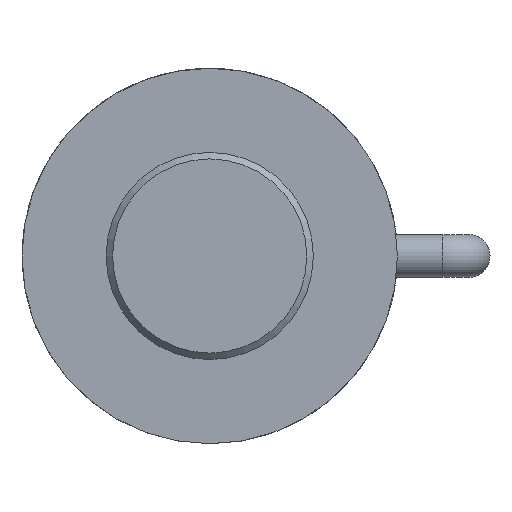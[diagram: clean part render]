
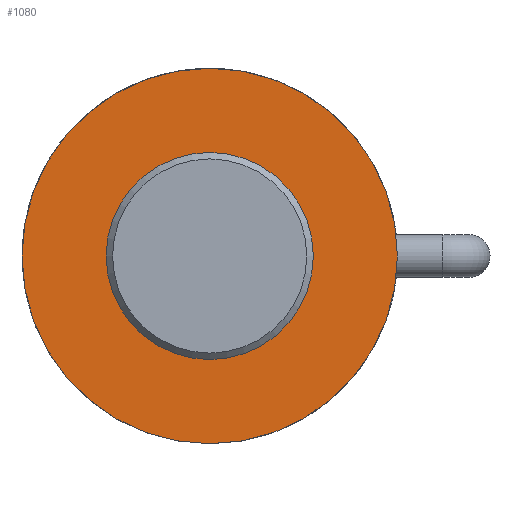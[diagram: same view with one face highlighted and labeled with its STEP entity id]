
A CAD part, left-side view. The second image highlights one B-rep face of the part: STEP entity #1080.
In plain terms, the highlighted planar face has unit normal (-1, 0, 0).
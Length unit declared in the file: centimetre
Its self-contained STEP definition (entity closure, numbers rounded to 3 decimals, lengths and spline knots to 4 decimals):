
#557=CIRCLE('',#1135,0.8);
#561=CIRCLE('',#1144,1.45);
#632=VERTEX_POINT('',#2283);
#636=VERTEX_POINT('',#2296);
#752=EDGE_CURVE('',#632,#632,#557,.T.);
#756=EDGE_CURVE('',#636,#636,#561,.T.);
#883=ORIENTED_EDGE('',*,*,#756,.F.);
#884=ORIENTED_EDGE('',*,*,#752,.T.);
#954=EDGE_LOOP('',(#883));
#955=EDGE_LOOP('',(#884));
#1025=FACE_BOUND('',#954,.T.);
#1026=FACE_BOUND('',#955,.T.);
#1080=ADVANCED_FACE('',(#1025,#1026),#2339,.T.);
#1135=AXIS2_PLACEMENT_3D('',#2282,#1272,#1273);
#1143=AXIS2_PLACEMENT_3D('',#2294,#1286,$);
#1144=AXIS2_PLACEMENT_3D('',#2295,#1287,#1288);
#1272=DIRECTION('',(1.,0.,0.));
#1273=DIRECTION('',(0.,0.8,0.));
#1286=DIRECTION('',(-1.,0.,0.));
#1287=DIRECTION('',(1.,0.,0.));
#1288=DIRECTION('',(0.,1.45,0.));
#2282=CARTESIAN_POINT('',(-0.5,0.,0.));
#2283=CARTESIAN_POINT('',(-0.5,0.8,0.));
#2294=CARTESIAN_POINT('',(-0.5,1.125,0.));
#2295=CARTESIAN_POINT('',(-0.5,0.,0.));
#2296=CARTESIAN_POINT('',(-0.5,1.45,0.));
#2339=PLANE('',#1143);
